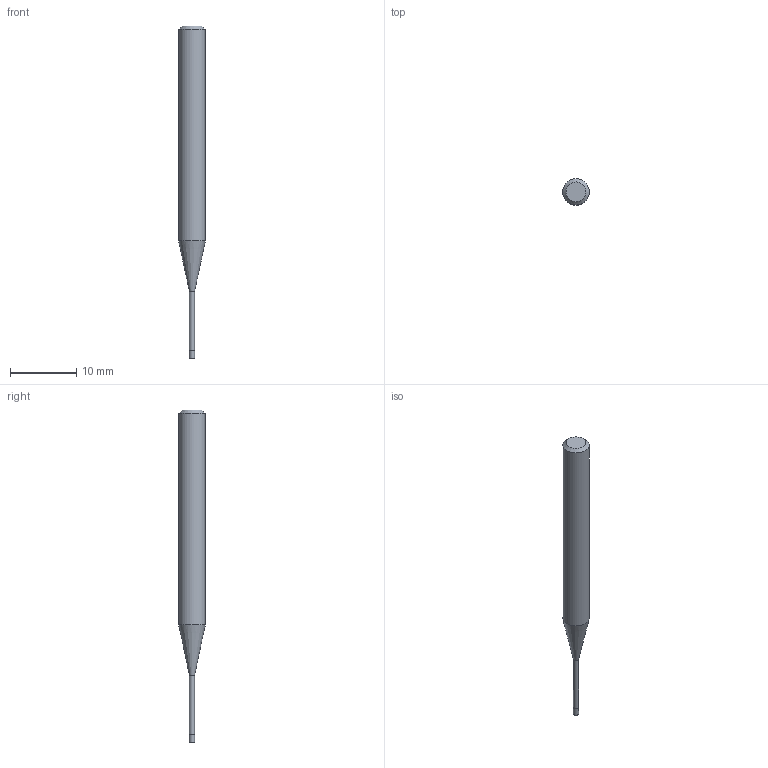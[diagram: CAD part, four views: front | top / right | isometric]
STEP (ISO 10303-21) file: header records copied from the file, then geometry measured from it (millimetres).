
FILE_DESCRIPTION((''),'2;1');
FILE_NAME('C:\Users\nsx150\AppData\Local\Temp\Mastercam 2021\17T8Q8S9EB\TEMP.step','2021-04-21T14:25:20',(''),(''),'STEP Write','Mastercam 2021 ... CNC Software, Inc.','');
FILE_SCHEMA(('AUTOMOTIVE_DESIGN'));
Length unit declared in the file: millimetre
Products named in the file (1): None
Bounding box: 4 x 4 x 50 mm (x, y, z)
Volume: 449.2 mm3; surface area: 499.2 mm2
Topology: 2 solids, 2 shells, 9 faces, 12 edges, 7 vertices
Faces by surface type: plane 4, cylinder 3, cone 2
Full cylindrical faces by diameter (mm): 0.76 x1, 0.8 x1, 4 x1
Entity records: 211 total; most frequent: DIRECTION 36, CARTESIAN_POINT 25, AXIS2_PLACEMENT_3D 18, ORIENTED_EDGE 14, EDGE_LOOP 14, STYLED_ITEM 12, ADVANCED_FACE 9, FACE_BOUND 8
